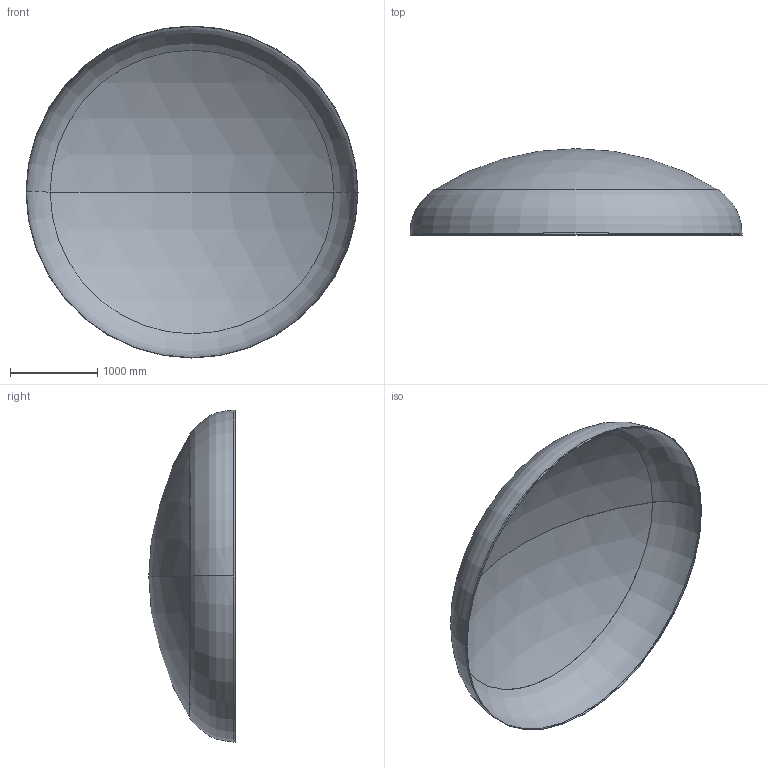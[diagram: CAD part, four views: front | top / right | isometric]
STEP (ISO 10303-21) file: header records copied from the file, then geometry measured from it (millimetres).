
FILE_DESCRIPTION (( 'STEP AP203' ), '1' );
FILE_NAME ('DIN 28013 Korbbogenform_-_Boden DIN 28013 - 3800 x 20 - I - s=4.step', '2016-07-01T20:57:22', ( '' ), ( '' ), 'SwSTEP 2.0', 'SolidWorks 2013', '' );
FILE_SCHEMA (( 'CONFIG_CONTROL_DESIGN' ));
Length unit declared in the file: millimetre
Products named in the file (1): DIN 28013 Korbbogenform_-_Boden DIN 28013 - 3800 x 20 - I - s=4
Bounding box: 3800 x 988.35 x 3800 mm (x, y, z)
Volume: 63698994.5 mm3; surface area: 31897219.4 mm2
Topology: 1 solids, 1 shells, 13 faces, 24 edges, 14 vertices
Faces by surface type: torus 4, cylinder 4, sphere 4, plane 1
Entity records: 407 total; most frequent: DIRECTION 72, CARTESIAN_POINT 52, ORIENTED_EDGE 48, AXIS2_PLACEMENT_3D 34, EDGE_CURVE 24, CIRCLE 20, VERTEX_POINT 14, EDGE_LOOP 14
